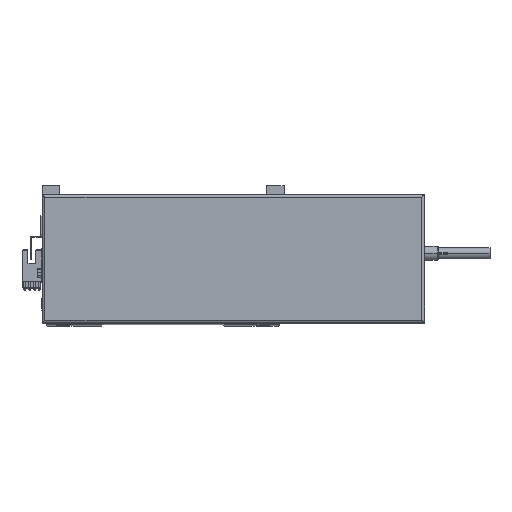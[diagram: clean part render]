
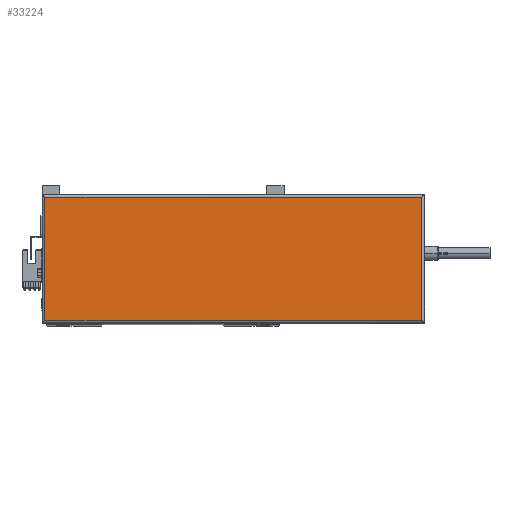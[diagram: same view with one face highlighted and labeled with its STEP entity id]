
A CAD part, top view. The second image highlights one B-rep face of the part: STEP entity #33224.
In plain terms, the highlighted planar face has unit normal (0, 0, 1).
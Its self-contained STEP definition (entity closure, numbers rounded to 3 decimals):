
#659 = ORIENTED_EDGE ( 'NONE', *, *, #15893, .T. ) ;
#2714 = CARTESIAN_POINT ( 'NONE',  ( 267., 2., 44.8 ) ) ;
#3213 = DIRECTION ( 'NONE',  ( 0., 0., 1. ) ) ;
#3787 = LINE ( 'NONE', #6153, #20177 ) ;
#5855 = VECTOR ( 'NONE', #33188, 1000. ) ;
#6153 = CARTESIAN_POINT ( 'NONE',  ( 265., 90., 44.8 ) ) ;
#6299 = VECTOR ( 'NONE', #37510, 1000. ) ;
#9805 = LINE ( 'NONE', #18336, #46915 ) ;
#10053 = CARTESIAN_POINT ( 'NONE',  ( 2., 2., 44.8 ) ) ;
#12489 = LINE ( 'NONE', #33355, #5855 ) ;
#15893 = EDGE_CURVE ( 'NONE', #24263, #30172, #12489, .T. ) ;
#16051 = CARTESIAN_POINT ( 'NONE',  ( 265., 88., 44.8 ) ) ;
#16302 = AXIS2_PLACEMENT_3D ( 'NONE', #30213, #3213, #41777 ) ;
#17368 = EDGE_CURVE ( 'NONE', #30172, #24831, #29990, .T. ) ;
#17892 = ORIENTED_EDGE ( 'NONE', *, *, #48997, .T. ) ;
#18336 = CARTESIAN_POINT ( 'NONE',  ( 0., 88., 44.8 ) ) ;
#20177 = VECTOR ( 'NONE', #21282, 1000. ) ;
#21282 = DIRECTION ( 'NONE',  ( 0., 1., 0. ) ) ;
#22433 = PLANE ( 'NONE',  #16302 ) ;
#22572 = DIRECTION ( 'NONE',  ( -1., 0., 0. ) ) ;
#24263 = VERTEX_POINT ( 'NONE', #28136 ) ;
#24305 = ORIENTED_EDGE ( 'NONE', *, *, #36783, .T. ) ;
#24831 = VERTEX_POINT ( 'NONE', #31647 ) ;
#26097 = EDGE_LOOP ( 'NONE', ( #24305, #17892, #659, #48481 ) ) ;
#28136 = CARTESIAN_POINT ( 'NONE',  ( 2., 88., 44.8 ) ) ;
#29990 = LINE ( 'NONE', #2714, #6299 ) ;
#30172 = VERTEX_POINT ( 'NONE', #10053 ) ;
#30213 = CARTESIAN_POINT ( 'NONE',  ( 133.5, 45., 44.8 ) ) ;
#31647 = CARTESIAN_POINT ( 'NONE',  ( 265., 2., 44.8 ) ) ;
#33188 = DIRECTION ( 'NONE',  ( 0., -1., 0. ) ) ;
#33224 = ADVANCED_FACE ( 'NONE', ( #37300 ), #22433, .T. ) ;
#33355 = CARTESIAN_POINT ( 'NONE',  ( 2., 0., 44.8 ) ) ;
#36783 = EDGE_CURVE ( 'NONE', #24831, #43297, #3787, .T. ) ;
#37300 = FACE_OUTER_BOUND ( 'NONE', #26097, .T. ) ;
#37510 = DIRECTION ( 'NONE',  ( 1., 0., 0. ) ) ;
#41777 = DIRECTION ( 'NONE',  ( 1., 0., 0. ) ) ;
#43297 = VERTEX_POINT ( 'NONE', #16051 ) ;
#46915 = VECTOR ( 'NONE', #22572, 1000. ) ;
#48481 = ORIENTED_EDGE ( 'NONE', *, *, #17368, .T. ) ;
#48997 = EDGE_CURVE ( 'NONE', #43297, #24263, #9805, .T. ) ;
